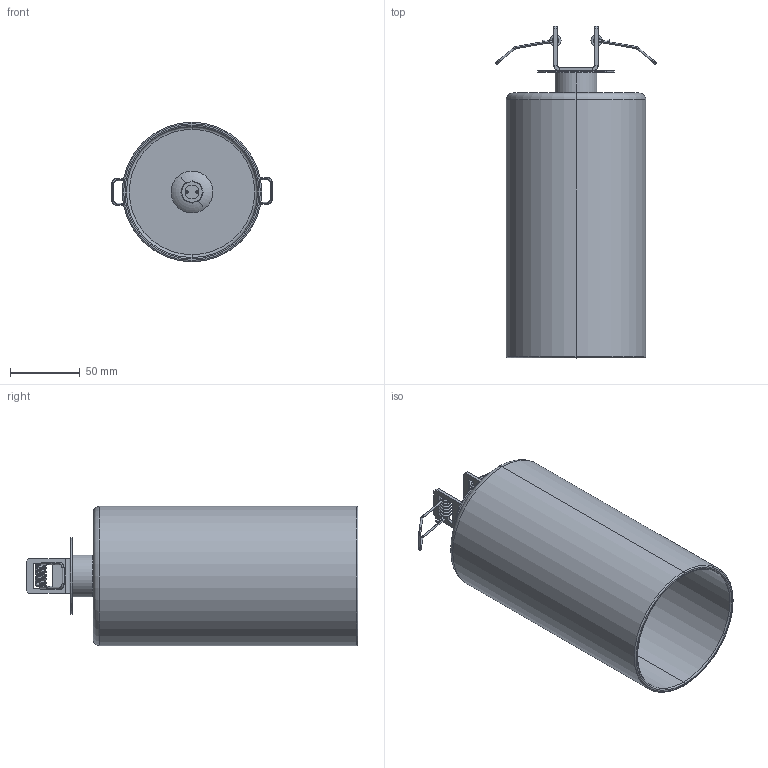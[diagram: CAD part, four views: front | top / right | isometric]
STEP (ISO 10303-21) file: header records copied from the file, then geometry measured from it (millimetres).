
FILE_DESCRIPTION (( 'STEP AP203' ), '1' );
FILE_NAME ('PLSPILIMXXCRINT-PER 3D.STEP', '2024-05-27T16:43:31', ( '' ), ( '' ), 'SwSTEP 2.0', 'SolidWorks 2024', '' );
FILE_SCHEMA (( 'CONFIG_CONTROL_DESIGN' ));
Length unit declared in the file: millimetre
Products named in the file (9): WSCM2C0055-0100-00; VSPILLRAYAM190CS; PLSPILIMXXCRINT-PER 3D; WSCM2A0135-0700-00; WSCM2C0165-0100-00; AX27-DL-1-04; WSCM2A0105-0700-00_WSCM2A0105-0744-00; WSASS-000000049-44; MOLLAKITINCASSO
Assembly tree (9 placements, depth 3):
  PLSPILIMXXCRINT-PER 3D
    VSPILLRAYAM190CS
    WSCM2C0165-0100-00
    WSCM2C0055-0100-00
    MOLLAKITINCASSO  x2
      AX27-DL-1-04
    WSASS-000000049-44
      WSCM2A0105-0700-00_WSCM2A0105-0744-00
    WSCM2A0135-0700-00
Bounding box: 115.15 x 238 x 100 mm (x, y, z)
Volume: 216949.9 mm3; surface area: 147358.5 mm2
Topology: 7 solids, 7 shells, 203 faces, 468 edges, 283 vertices
Faces by surface type: cylinder 66, plane 63, torus 42, cone 20, bspline 12
Entity records: 9237 total; most frequent: CARTESIAN_POINT 4290, DIRECTION 918, ORIENTED_EDGE 776, EDGE_CURVE 388, AXIS2_PLACEMENT_3D 365, VERTEX_POINT 235, EDGE_LOOP 193, VECTOR 188
